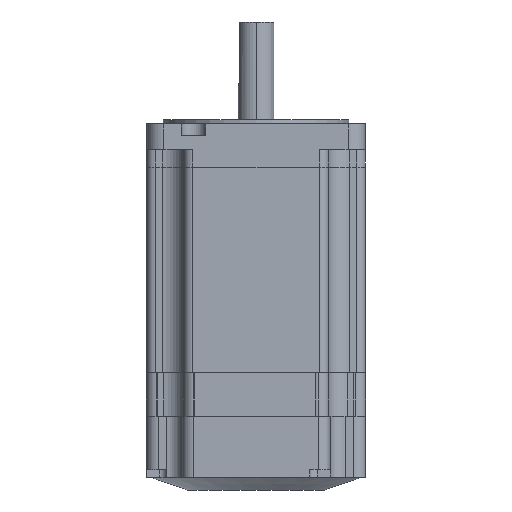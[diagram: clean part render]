
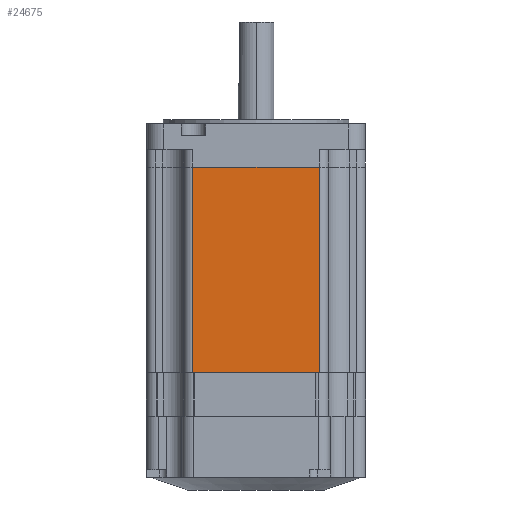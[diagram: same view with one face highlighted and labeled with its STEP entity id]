
A CAD part, left-side view. The second image highlights one B-rep face of the part: STEP entity #24675.
In plain terms, the highlighted planar face has unit normal (-1, 0, 0).
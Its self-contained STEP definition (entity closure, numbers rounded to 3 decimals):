
#1099 = VECTOR ( 'NONE', #19240, 1000. ) ;
#3550 = CARTESIAN_POINT ( 'NONE',  ( -42.95, 24.882, -40.35 ) ) ;
#4414 = LINE ( 'NONE', #28158, #1099 ) ;
#5558 = VECTOR ( 'NONE', #32087, 1000. ) ;
#6373 = CARTESIAN_POINT ( 'NONE',  ( -42.95, -24.882, 40.35 ) ) ;
#8162 = FACE_OUTER_BOUND ( 'NONE', #32911, .T. ) ;
#11169 = VERTEX_POINT ( 'NONE', #27410 ) ;
#16325 = EDGE_CURVE ( 'NONE', #11169, #18218, #21774, .T. ) ;
#16663 = CARTESIAN_POINT ( 'NONE',  ( -42.95, 24.882, 40.35 ) ) ;
#18218 = VERTEX_POINT ( 'NONE', #34956 ) ;
#18413 = EDGE_CURVE ( 'NONE', #20202, #11169, #27832, .T. ) ;
#18655 = VECTOR ( 'NONE', #18740, 1000. ) ;
#18740 = DIRECTION ( 'NONE',  ( 0., -1., 0. ) ) ;
#19240 = DIRECTION ( 'NONE',  ( 0., -1., 0. ) ) ;
#20142 = EDGE_CURVE ( 'NONE', #22127, #18218, #4414, .T. ) ;
#20202 = VERTEX_POINT ( 'NONE', #16663 ) ;
#20799 = DIRECTION ( 'NONE',  ( 1., 0., 0. ) ) ;
#21774 = LINE ( 'NONE', #6373, #28307 ) ;
#22127 = VERTEX_POINT ( 'NONE', #3550 ) ;
#23570 = PLANE ( 'NONE',  #24381 ) ;
#24381 = AXIS2_PLACEMENT_3D ( 'NONE', #38194, #20799, #35606 ) ;
#24675 = ADVANCED_FACE ( 'NONE', ( #8162 ), #23570, .F. ) ;
#24928 = ORIENTED_EDGE ( 'NONE', *, *, #25849, .T. ) ;
#25849 = EDGE_CURVE ( 'NONE', #20202, #22127, #31879, .T. ) ;
#27410 = CARTESIAN_POINT ( 'NONE',  ( -42.95, -24.882, 40.35 ) ) ;
#27832 = LINE ( 'NONE', #33366, #18655 ) ;
#28158 = CARTESIAN_POINT ( 'NONE',  ( -42.95, -24.882, -40.35 ) ) ;
#28307 = VECTOR ( 'NONE', #33847, 1000. ) ;
#31164 = ORIENTED_EDGE ( 'NONE', *, *, #16325, .F. ) ;
#31303 = CARTESIAN_POINT ( 'NONE',  ( -42.95, 24.882, 40.35 ) ) ;
#31879 = LINE ( 'NONE', #31303, #5558 ) ;
#32087 = DIRECTION ( 'NONE',  ( 0., 0., -1. ) ) ;
#32911 = EDGE_LOOP ( 'NONE', ( #33889, #31164, #37632, #24928 ) ) ;
#33366 = CARTESIAN_POINT ( 'NONE',  ( -42.95, -24.882, 40.35 ) ) ;
#33847 = DIRECTION ( 'NONE',  ( 0., 0., -1. ) ) ;
#33889 = ORIENTED_EDGE ( 'NONE', *, *, #20142, .T. ) ;
#34956 = CARTESIAN_POINT ( 'NONE',  ( -42.95, -24.882, -40.35 ) ) ;
#35606 = DIRECTION ( 'NONE',  ( 0., 0., -1. ) ) ;
#37632 = ORIENTED_EDGE ( 'NONE', *, *, #18413, .F. ) ;
#38194 = CARTESIAN_POINT ( 'NONE',  ( -42.95, -24.882, 40.35 ) ) ;
